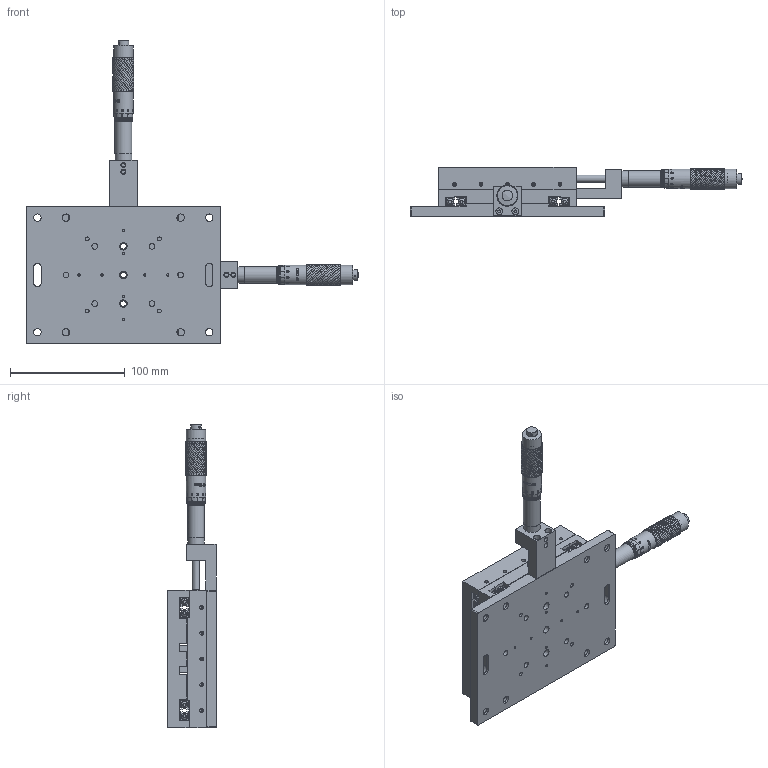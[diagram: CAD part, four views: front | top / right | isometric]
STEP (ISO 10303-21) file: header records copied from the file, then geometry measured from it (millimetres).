
FILE_DESCRIPTION (( 'STEP AP203' ), '1' );
FILE_NAME ('TCS120XY-2.step', '2017-01-10T09:16:28', ( '¦K¬P' ), ( '' ), 'SwSTEP 2.0', 'SolidWorks 2012', '' );
FILE_SCHEMA (( 'CONFIG_CONTROL_DESIGN' ));
Products named in the file (1): TCS120XY-2
Bounding box: 289.87 x 43 x 264.87 mm (x, y, z)
Surface area: 174685.9 mm2 (no closed solid volume)
Topology: 0 solids, 276 shells, 3172 faces, 17063 edges, 12845 vertices
Faces by surface type: cylinder 1744, bspline 1048, plane 339, cone 23, torus 16, sphere 2
Full cylindrical faces by diameter (mm): 1.5 x2, 2 x14, 3.3 x31, 4.5 x4, 5 x43, 6 x4, 6.5 x13, 9.3 x2, 9.5 x2, 11 x10, 14.5 x2, 15.2 x2, 17 x4
Entity records: 313031 total; most frequent: CARTESIAN_POINT 220996, ORIENTED_EDGE 23836, EDGE_CURVE 16879, VERTEX_POINT 12821, DIRECTION 9228, B_SPLINE_CURVE_WITH_KNOTS 6834, EDGE_LOOP 3838, AXIS2_PLACEMENT_3D 3527
